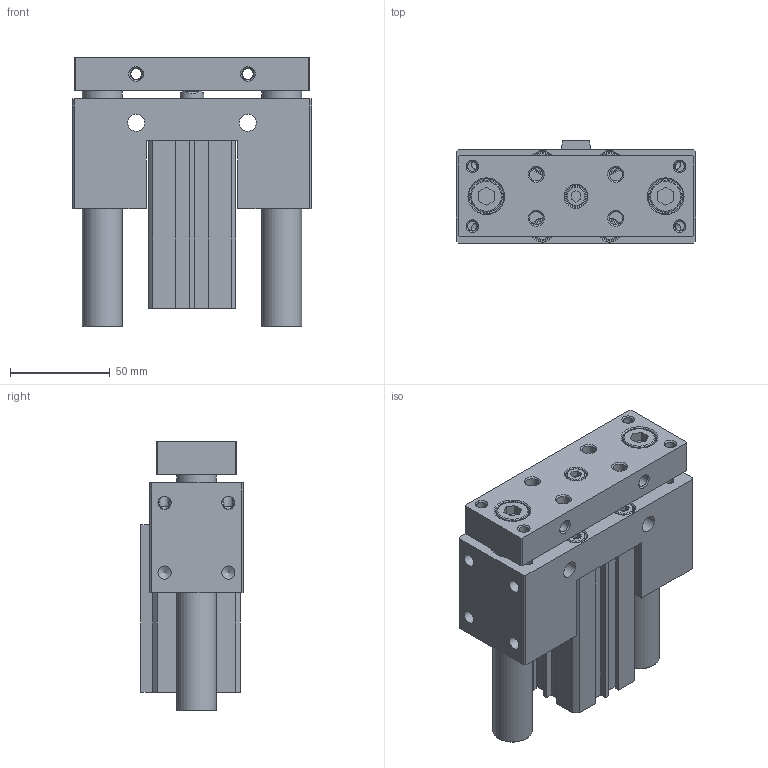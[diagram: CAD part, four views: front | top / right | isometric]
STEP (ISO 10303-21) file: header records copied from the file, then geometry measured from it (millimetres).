
FILE_DESCRIPTION((''),'2;1');
FILE_NAME('I:\3D電子目錄\氣缸\JCB\JCB\JCB32\JCB32x60.stp','2007-08-21T20:26:14',('Administrator'),(''),'Autodesk Inventor 11','Autodesk Inventor 11','');
FILE_SCHEMA(('AUTOMOTIVE_DESIGN { 1 0 10303 214 1 1 1 1 }'));
Length unit declared in the file: millimetre
Products named in the file (1): JCB32
Bounding box: 120 x 51.5 x 135.4 mm (x, y, z)
Volume: 468987 mm3; surface area: 110851 mm2
Topology: 3 solids, 3 shells, 320 faces, 754 edges, 489 vertices
Faces by surface type: plane 173, cylinder 53, bspline 45, cone 41, torus 8
Full cylindrical faces by diameter (mm): 2.2 x1, 5.1 x4, 6 x2, 6.647 x4, 8 x8, 10 x5, 11 x5, 12 x1, 13 x1, 16 x2, 17.5 x2, 20 x2, 22 x1, 23 x3, 34 x4, 36 x2
Entity records: 9272 total; most frequent: CARTESIAN_POINT 2540, DIRECTION 1340, ORIENTED_EDGE 1192, EDGE_CURVE 596, EDGE_LOOP 534, AXIS2_PLACEMENT_3D 492, VERTEX_POINT 458, VECTOR 356
